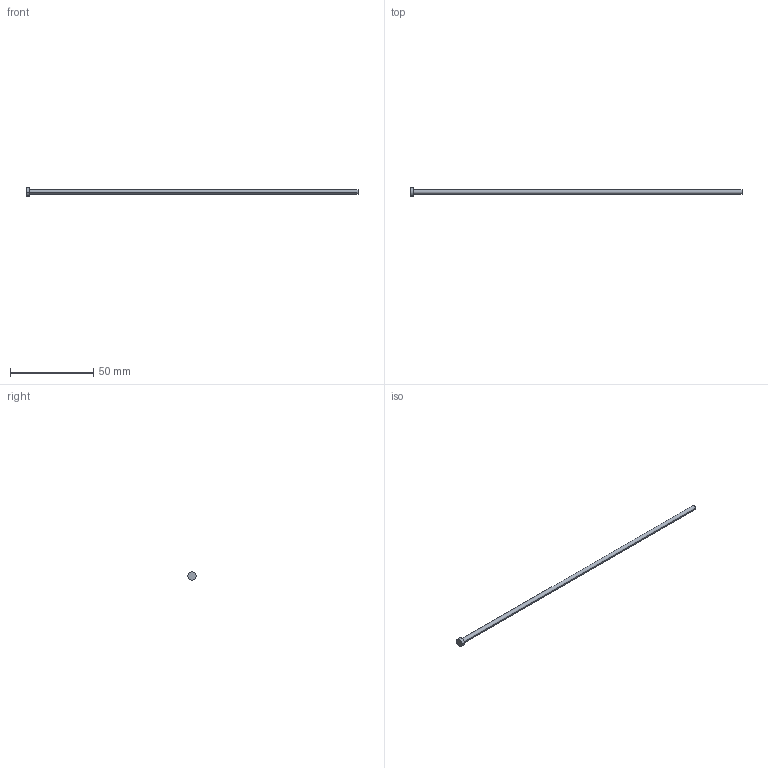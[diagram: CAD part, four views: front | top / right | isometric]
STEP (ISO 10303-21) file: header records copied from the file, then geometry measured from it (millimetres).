
FILE_DESCRIPTION (( 'STEP AP214' ), '1' );
FILE_NAME ('A-2,7x200.STEP', '2020-05-28T16:58:13', ( 'August' ), ( '' ), 'SwSTEP 2.0', 'SolidWorks 2018', '' );
FILE_SCHEMA (( 'AUTOMOTIVE_DESIGN' ));
Length unit declared in the file: millimetre
Products named in the file (1): A-2,7x200
Bounding box: 200 x 5 x 5 mm (x, y, z)
Volume: 1173.1 mm3; surface area: 1749.1 mm2
Topology: 1 solids, 1 shells, 9 faces, 16 edges, 10 vertices
Faces by surface type: cylinder 4, plane 3, torus 2
Entity records: 260 total; most frequent: DIRECTION 48, CARTESIAN_POINT 36, ORIENTED_EDGE 32, AXIS2_PLACEMENT_3D 22, EDGE_CURVE 16, CIRCLE 12, EDGE_LOOP 10, VERTEX_POINT 10
